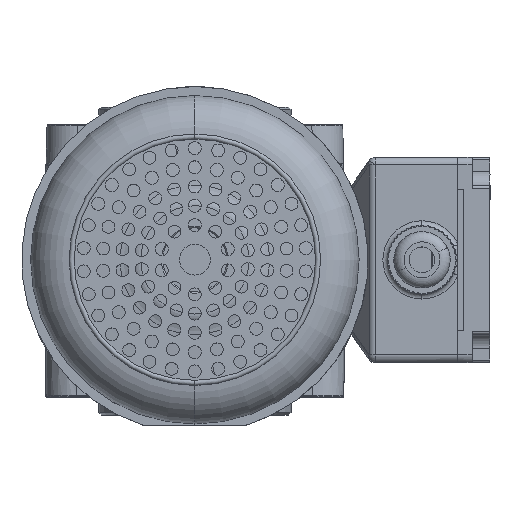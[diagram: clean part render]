
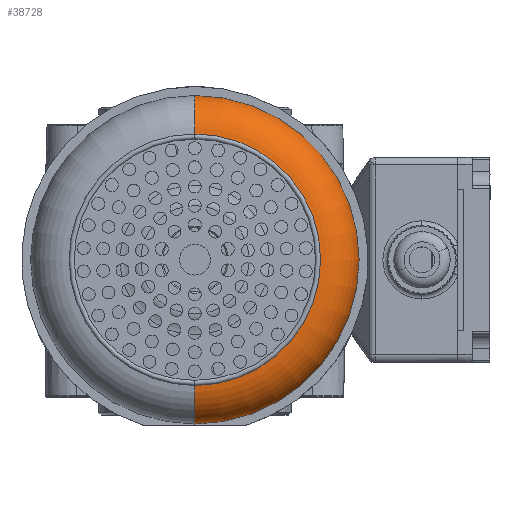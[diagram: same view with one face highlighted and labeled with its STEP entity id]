
A CAD part, top view. The second image highlights one B-rep face of the part: STEP entity #38728.
In plain terms, the highlighted toroidal (fillet/blend) face has major radius 48 mm and minor radius 16 mm.
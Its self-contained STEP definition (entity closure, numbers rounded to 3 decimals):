
#1583 = AXIS2_PLACEMENT_3D ( 'NONE', #19950, #26543, #83921 ) ;
#2713 = DIRECTION ( 'NONE',  ( -1., 0., 0.017 ) ) ;
#4980 = AXIS2_PLACEMENT_3D ( 'NONE', #50557, #38790, #74985 ) ;
#10199 = DIRECTION ( 'NONE',  ( 0., 1., 0. ) ) ;
#10643 = CARTESIAN_POINT ( 'NONE',  ( -21.792, 258.009, 155.768 ) ) ;
#11091 = EDGE_CURVE ( 'NONE', #78092, #31965, #42982, .T. ) ;
#13297 = EDGE_CURVE ( 'NONE', #31965, #82185, #61134, .T. ) ;
#19950 = CARTESIAN_POINT ( 'NONE',  ( -21.792, 242.041, 155.768 ) ) ;
#21490 = ORIENTED_EDGE ( 'NONE', *, *, #21586, .F. ) ;
#21586 = EDGE_CURVE ( 'NONE', #70393, #78092, #80173, .T. ) ;
#24208 = CARTESIAN_POINT ( 'NONE',  ( 27.2, 258.009, 154.913 ) ) ;
#25111 = AXIS2_PLACEMENT_3D ( 'NONE', #62691, #90886, #55168 ) ;
#26076 = FACE_OUTER_BOUND ( 'NONE', #38133, .T. ) ;
#26543 = DIRECTION ( 'NONE',  ( 0., -1., 0. ) ) ;
#31965 = VERTEX_POINT ( 'NONE', #75674 ) ;
#35074 = CARTESIAN_POINT ( 'NONE',  ( -85.783, 242.041, 156.885 ) ) ;
#38133 = EDGE_LOOP ( 'NONE', ( #21490, #81907, #49146, #86707 ) ) ;
#38728 = ADVANCED_FACE ( 'NONE', ( #26076 ), #63066, .T. ) ;
#38790 = DIRECTION ( 'NONE',  ( 0.017, 0., 1. ) ) ;
#41842 = DIRECTION ( 'NONE',  ( -0.017, 0., -1. ) ) ;
#42345 = EDGE_CURVE ( 'NONE', #70393, #82185, #86058, .T. ) ;
#42982 = CIRCLE ( 'NONE', #90827, 16. ) ;
#49146 = ORIENTED_EDGE ( 'NONE', *, *, #13297, .F. ) ;
#50060 = AXIS2_PLACEMENT_3D ( 'NONE', #10643, #10199, #2713 ) ;
#50557 = CARTESIAN_POINT ( 'NONE',  ( -69.785, 242.041, 156.606 ) ) ;
#55168 = DIRECTION ( 'NONE',  ( 1., 0., -0.017 ) ) ;
#61134 = CIRCLE ( 'NONE', #25111, 64. ) ;
#62691 = CARTESIAN_POINT ( 'NONE',  ( -21.792, 242.041, 155.768 ) ) ;
#63066 = TOROIDAL_SURFACE ( 'NONE', #1583, 48., 16. ) ;
#70393 = VERTEX_POINT ( 'NONE', #86954 ) ;
#70525 = DIRECTION ( 'NONE',  ( 0., -1., 0. ) ) ;
#74985 = DIRECTION ( 'NONE',  ( 1., 0., -0.017 ) ) ;
#75674 = CARTESIAN_POINT ( 'NONE',  ( 42.198, 242.041, 154.651 ) ) ;
#77590 = CARTESIAN_POINT ( 'NONE',  ( 26.2, 242.041, 154.93 ) ) ;
#78092 = VERTEX_POINT ( 'NONE', #24208 ) ;
#80173 = CIRCLE ( 'NONE', #50060, 49. ) ;
#81907 = ORIENTED_EDGE ( 'NONE', *, *, #42345, .T. ) ;
#82185 = VERTEX_POINT ( 'NONE', #35074 ) ;
#83921 = DIRECTION ( 'NONE',  ( 1., 0., -0.017 ) ) ;
#86058 = CIRCLE ( 'NONE', #4980, 16. ) ;
#86707 = ORIENTED_EDGE ( 'NONE', *, *, #11091, .F. ) ;
#86954 = CARTESIAN_POINT ( 'NONE',  ( -70.784, 258.009, 156.623 ) ) ;
#90827 = AXIS2_PLACEMENT_3D ( 'NONE', #77590, #41842, #70525 ) ;
#90886 = DIRECTION ( 'NONE',  ( 0., -1., 0. ) ) ;
